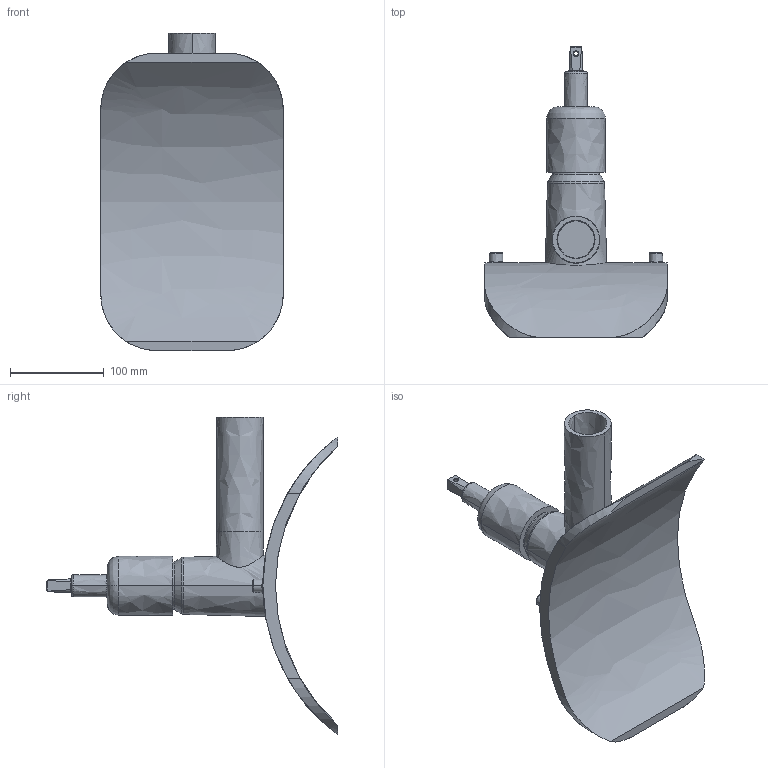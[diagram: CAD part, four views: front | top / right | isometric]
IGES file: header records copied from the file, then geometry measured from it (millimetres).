
Start section:  PTC IGES file: dav-tl_d400_dn50_01.igs
Global section: file name: dav-tl_d400_dn50_01.igs; native system: Pro/ENGINEER by Parametric Technology Corporation; preprocessor: 2011490; author: mtunjic; organization: Unknown; date: 20130909.102716; units: millimetre
Bounding box: 195 x 311.58 x 339 mm (x, y, z)
Surface area: 219401.6 mm2 (no closed solid volume)
Topology: 0 solids, 0 shells, 211 faces, 1038 edges, 1036 vertices
Faces by surface type: bspline 211
